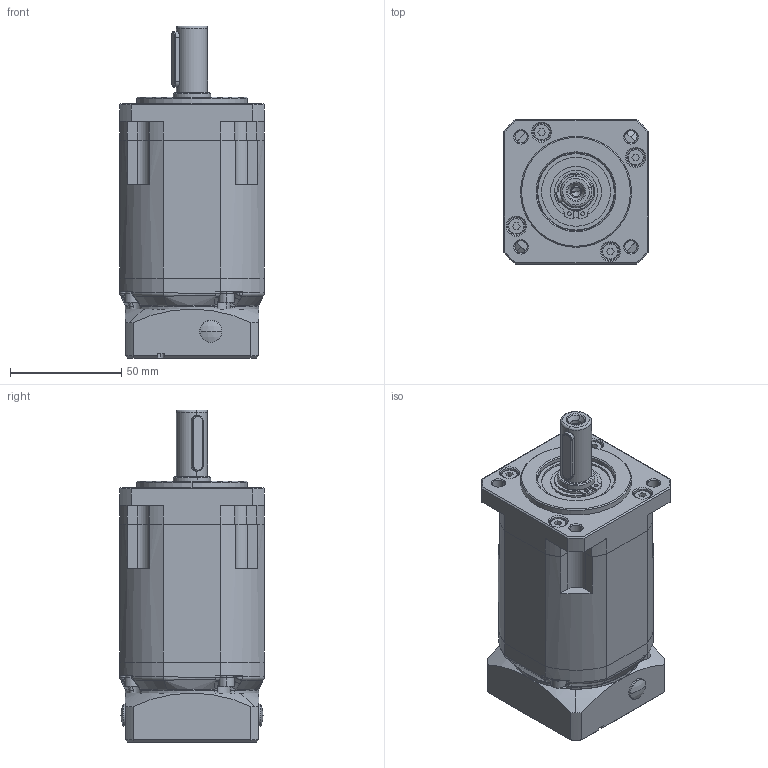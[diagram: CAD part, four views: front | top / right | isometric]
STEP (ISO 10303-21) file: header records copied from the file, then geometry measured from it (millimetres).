
FILE_DESCRIPTION (( 'STEP AP203' ), '1' );
FILE_NAME ('PS70L3-i-P2-S2-8-25-30-46-M4 .step', '2020-03-30T09:39:42', ( '个人用户' ), ( '微软中国' ), 'SwSTEP 2.0', 'SolidWorks 2018', '' );
FILE_SCHEMA (( 'CONFIG_CONTROL_DESIGN' ));
Length unit declared in the file: millimetre
Products named in the file (1): PS70L3-i-P2-S2-8-25-30-46-M4 
Bounding box: 65 x 65 x 149.5 mm (x, y, z)
Volume: 283076.8 mm3; surface area: 100078.3 mm2
Topology: 34 solids, 34 shells, 1223 faces, 2834 edges, 1756 vertices
Faces by surface type: cylinder 437, plane 356, cone 170, torus 120, sphere 102, bspline 38
Entity records: 38297 total; most frequent: CARTESIAN_POINT 9948, DIRECTION 6350, ORIENTED_EDGE 5568, EDGE_CURVE 2784, AXIS2_PLACEMENT_3D 2629, VERTEX_POINT 1752, CIRCLE 1443, EDGE_LOOP 1416
